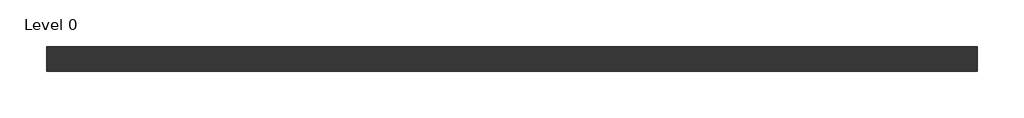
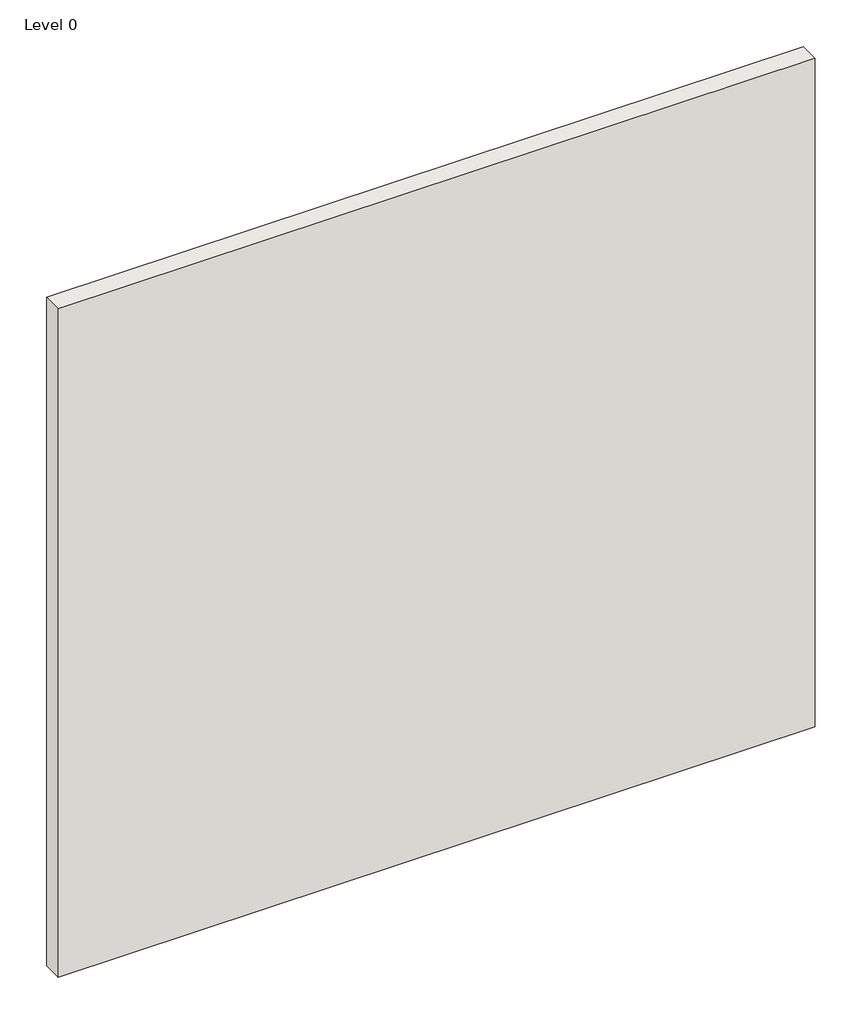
# One storey: 1 wall.
"""IFC4 building model written with IfcOpenShell, lengths in millimetres."""

import ifcopenshell
import ifcopenshell.guid

model = None  # the IFC model being written
_history = None  # IfcOwnerHistory: only IFC2X3 demands one
_inside = {}  # id of a spatial element -> (the spatial element, [elements in it])
_under = {}  # id of a project, library or spatial element -> (it, [spatial elements below it])
_declared = {}  # id of a project -> (the project, [libraries it declares])
_typed = {}  # id of a type object -> (the type object, [elements of that type])
_made_of = {}  # id of a material, layer set ... -> (it, [elements and type objects made of it])


def new_model(schema):
    """Start an empty IFC model of exactly this schema.

    Asked for "IFC4X3", IfcOpenShell would pick the latest addendum, in which some entities
    have other attributes; the version numbers below select the first issue.
    IFC2X3 requires an IfcOwnerHistory on every rooted entity: one is made here for all.
    """
    global model, _history
    if schema == "IFC4X3":
        model = ifcopenshell.file(schema_version=(4, 3, 0, 0))
    else:
        model = ifcopenshell.file(schema=schema)
    _inside.clear()
    _under.clear()
    _declared.clear()
    _typed.clear()
    _made_of.clear()
    _history = None
    if model.schema == "IFC2X3":
        org = make("IfcOrganization", Name="unknown")
        user = make(
            "IfcPersonAndOrganization",
            ThePerson=make("IfcPerson", FamilyName="unknown"),
            TheOrganization=org,
        )
        app = make(
            "IfcApplication",
            ApplicationDeveloper=org,
            Version="unknown",
            ApplicationFullName="unknown",
            ApplicationIdentifier="unknown",
        )
        _history = make(
            "IfcOwnerHistory",
            OwningUser=user,
            OwningApplication=app,
            ChangeAction="ADDED",
            CreationDate=0,
        )
    return model


def make(cls, **values):
    """One entity of the class cls with the attributes given. An attribute that is None is left unset."""
    return model.create_entity(
        cls, **{name: value for name, value in values.items() if value is not None}
    )


def rooted(cls, **values):
    """An entity with a GlobalId (a new one), such as an element, a storey or a relation."""
    return make(cls, GlobalId=ifcopenshell.guid.new(), OwnerHistory=_history, **values)


def si_unit(unit_type, name, prefix=None):
    """IfcSIUnit, for example si_unit("LENGTHUNIT", "METRE", prefix="MILLI")."""
    return make("IfcSIUnit", UnitType=unit_type, Prefix=prefix, Name=name)


def assignment(units):
    """IfcUnitAssignment: the units of a project."""
    return None if units is None else make("IfcUnitAssignment", Units=units)


def point(xyz):
    """IfcCartesianPoint."""
    return None if xyz is None else make("IfcCartesianPoint", Coordinates=xyz)


def direction(xyz):
    """IfcDirection."""
    return None if xyz is None else make("IfcDirection", DirectionRatios=xyz)


def frame(location, z_axis=None, x_axis=None):
    """IfcAxis2Placement3D, a coordinate frame: its origin and axes. An axis left out is left unset."""
    return make(
        "IfcAxis2Placement3D",
        Location=point(location),
        Axis=direction(z_axis),
        RefDirection=direction(x_axis),
    )


def origin():
    """The frame at (0, 0, 0) with its axes left unset."""
    return frame((0.0, 0.0, 0.0))


def origin_with_axes():
    """The frame at (0, 0, 0) with the z axis (0, 0, 1) and the x axis (1, 0, 0) written out."""
    return frame((0.0, 0.0, 0.0), z_axis=(0.0, 0.0, 1.0), x_axis=(1.0, 0.0, 0.0))


def place(relative_to, where):
    """IfcLocalPlacement: puts the frame where relative to a parent placement (None: the world)."""
    return make(
        "IfcLocalPlacement", PlacementRelTo=relative_to, RelativePlacement=where
    )


def context(
    kind, dimensions, precision=None, world=None, true_north=None, identifier=None
):
    """IfcGeometricRepresentationContext, for example the 3D "Model" context."""
    return make(
        "IfcGeometricRepresentationContext",
        ContextIdentifier=identifier,
        ContextType=kind,
        CoordinateSpaceDimension=dimensions,
        Precision=precision,
        WorldCoordinateSystem=world,
        TrueNorth=true_north,
    )


def project(units=None, contexts=None):
    """IfcProject with its units and contexts."""
    return rooted(
        "IfcProject",
        Name="project",
        RepresentationContexts=contexts,
        UnitsInContext=assignment(units),
    )


def spatial(cls, under=None, at=None, **own):
    """A site, building, storey or space (cls), placed at a placement, below another one or the project."""
    s = rooted(cls, ObjectPlacement=at, **own)
    if under is not None:
        _under.setdefault(under.id(), (under, []))[1].append(s)
    return s


def polyline(points):
    """IfcPolyline through the points."""
    return make("IfcPolyline", Points=[point(p) for p in points])


def outline(outer, holes=None, kind="AREA"):
    """IfcArbitraryClosedProfileDef: a profile drawn as a closed curve; with holes, ...WithVoids."""
    if holes is None:
        return make("IfcArbitraryClosedProfileDef", ProfileType=kind, OuterCurve=outer)
    return make(
        "IfcArbitraryProfileDefWithVoids",
        ProfileType=kind,
        OuterCurve=outer,
        InnerCurves=holes,
    )


def extrude(swept, where, along, depth):
    """IfcExtrudedAreaSolid: the profile swept, set in the frame where, extruded along a direction by depth."""
    return make(
        "IfcExtrudedAreaSolid",
        SweptArea=swept,
        Position=where,
        ExtrudedDirection=direction(along),
        Depth=depth,
    )


def shape(context_of_items, identifier, shape_type, items):
    """IfcShapeRepresentation: the items that make up one representation, for example the "Body"."""
    return make(
        "IfcShapeRepresentation",
        ContextOfItems=context_of_items,
        RepresentationIdentifier=identifier,
        RepresentationType=shape_type,
        Items=items,
    )


def made_of(thing, what):
    """Note that an element or type object is made of a material, layer set ...; save() writes the relation."""
    if what is not None:
        _made_of.setdefault(what.id(), (what, []))[1].append(thing)
    return thing


def element(
    cls,
    number,
    at=None,
    inside=None,
    cuts=None,
    type_object=None,
    material=None,
    context=None,
    identifier="Body",
    shape_type=None,
    held_by="IfcProductDefinitionShape",
    body=None,
    shapes=None,
    **own,
):
    """One element of the class cls, such as IfcWall. Its Tag is "e" and its number.

    at: its placement. inside: the storey or other place that contains it. cuts: it is an
    opening in that element (IfcRelVoidsElement). A single representation is given by context,
    identifier, shape_type and body (its items); several are given by shapes. held_by: the class
    of the entity that holds the representations. save() writes the other relations.
    """
    e = rooted(cls, Tag="e%d" % number, ObjectPlacement=at, **own)
    if body is not None:
        shapes = [shape(context, identifier, shape_type, body)]
    if shapes is not None:
        e.Representation = make(held_by, Representations=shapes)
    if inside is not None:
        _inside.setdefault(inside.id(), (inside, []))[1].append(e)
    if cuts is not None:
        rooted(
            "IfcRelVoidsElement", RelatingBuildingElement=cuts, RelatedOpeningElement=e
        )
    if type_object is not None:
        _typed.setdefault(type_object.id(), (type_object, []))[1].append(e)
    return made_of(e, material)


def aggregate(whole, parts):
    """IfcRelAggregates: a whole, such as a stair, and the parts it consists of."""
    return rooted("IfcRelAggregates", RelatingObject=whole, RelatedObjects=parts)


def save(model, path):
    """Write the relations noted so far, then the file.

    IfcRelAggregates (storeys below a building ...), IfcRelContainedInSpatialStructure (elements
    in a storey), IfcRelDefinesByType, IfcRelAssociatesMaterial and IfcRelDeclares: one each for
    every whole, place, type object, material and project.
    """
    for whole, parts in _under.values():
        aggregate(whole, parts)
    for where, things in _inside.values():
        rooted(
            "IfcRelContainedInSpatialStructure",
            RelatedElements=things,
            RelatingStructure=where,
        )
    for kind, things in _typed.values():
        rooted("IfcRelDefinesByType", RelatedObjects=things, RelatingType=kind)
    for what, things in _made_of.values():
        rooted("IfcRelAssociatesMaterial", RelatedObjects=things, RelatingMaterial=what)
    for by, libraries in _declared.values():
        rooted("IfcRelDeclares", RelatingContext=by, RelatedDefinitions=libraries)
    model.write(path)


model = new_model("IFC4")

# Units and contexts
model_context = context("Model", 3, world=origin())
ifc_project = project(units=[si_unit("LENGTHUNIT", "METRE", prefix="MILLI")], contexts=[model_context])

# Site, building, storey
site = spatial("IfcSite", under=ifc_project)
building = spatial("IfcBuilding", under=site)
storey = spatial("IfcBuildingStorey", under=building, Name="Level 0", Elevation=0.0)

# Wall
placement = place(None, origin())
element("IfcWall", 1, ObjectType="A206034 - GypWall CLASSIC", at=placement, inside=storey, context=model_context, shape_type="SweptSolid", body=[
    extrude(outline(polyline([(2116.0807354, 553.7205641), (-883.9192646, 553.7205641), (-883.9192646, 633.7205641), (2116.0807354, 633.7205641), (2116.0807354, 553.7205641)])), origin_with_axes(), (0.0, 0.0, 1.0), 2800.0),
])

save(model, "model.ifc")
